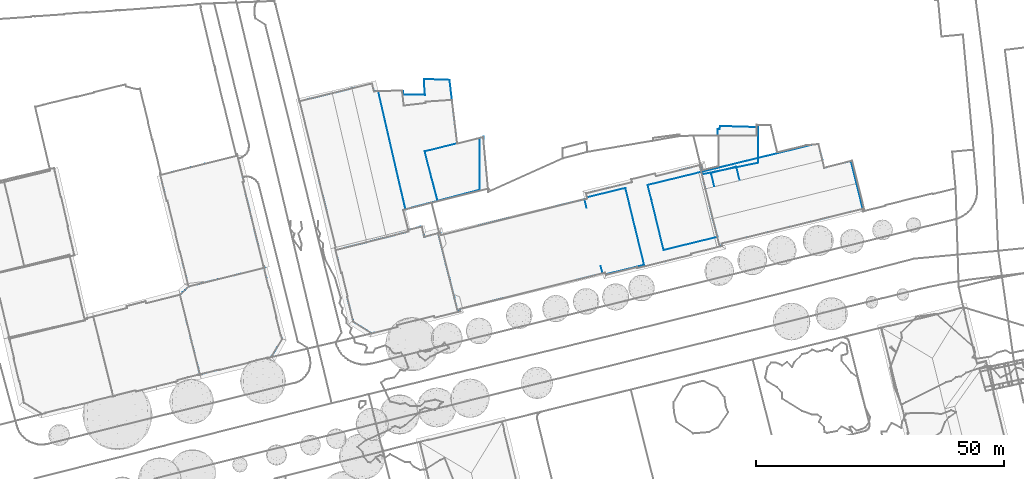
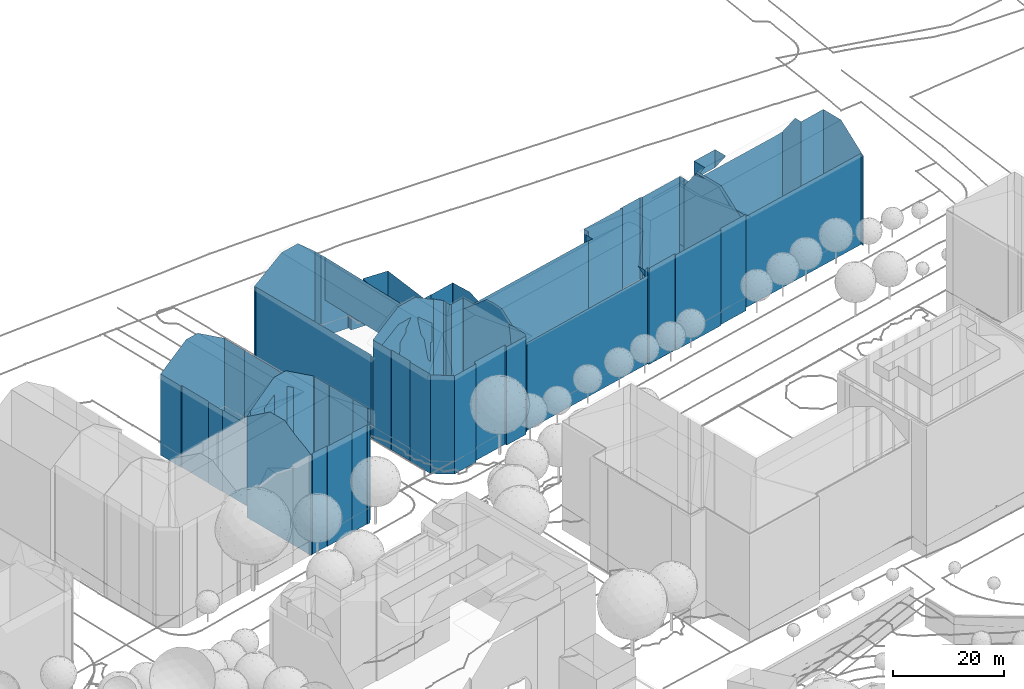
# Not in any storey, part 56 of 494: 6 walls.
"""IFC2X3 model written with IfcOpenShell, lengths in metres."""

from ifc_helpers import new_model, si_unit, frame, origin_with_axes, place, context, subcontext, project, faceted_brep, element, save


model = new_model("IFC2X3")

# Units and contexts
model_context = context("Model", 3, precision=1e-05, world=origin_with_axes())
body_context = subcontext(model_context, "Body", "Model", "MODEL_VIEW")
ifc_project = project(units=[si_unit("AREAUNIT", "SQUARE_METRE"), si_unit("LENGTHUNIT", "METRE")], contexts=[model_context])

# Walls
wall_1_placement = place(None, frame((322.3647320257, 436.9627160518, 538.8935), z_axis=(0.0, 0.0, 1.0), x_axis=(1.0, 0.0, 0.0)))
element("IfcWall", 1, at=wall_1_placement, Name="Wall 0", context=body_context, shape_type="Brep", body=[
    faceted_brep([(6.2010000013, 1.558600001, 22.2648), (9.0160000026, 2.2666000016, 22.2648), (6.2010000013, 1.558600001, -0.0001), (14.6490000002, -20.2509999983, 22.2648), (11.8310000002, -20.9481999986, 22.2648), (14.6490000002, -20.2509999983, -0.0001), (3.0170000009, -11.9463, 17.8682), (3.0940000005, -11.9248000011, 17.9242), (3.0940000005, -11.9248000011, -0.0001), (3.0170000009, -11.9463, -0.0001), (3.887000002, -15.4481999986, -0.0001), (3.887000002, -15.4481999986, 17.8642), (3.9580000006, -15.4365999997, -0.0001), (3.9580000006, -15.436499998, 17.9142), (5.693, -22.4668000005, 17.8982), (4.8839999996, -19.1884999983, 17.9052), (5.693, -22.4668000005, -0.0001), (11.8310000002, -20.9481999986, -0.0001), (0.0, 0.0, 0.0), (0.0, 0.0, 17.8492), (0.5080000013, -2.0780999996, 17.8412), (1.2719999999, -5.2040999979, -0.0001), (1.2719999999, -5.2040999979, 17.8292), (1.432, -5.1777999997, -0.0001), (1.432, -5.177699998, 17.9412), (16.8340000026, -1.3456999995, 17.8612), (16.6009999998, -1.4043000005, -0.0001), (16.8340000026, -1.3456999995, -0.0001), (15.9020000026, 2.4257999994, 17.8542), (16.2820000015, 0.8887000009, 17.8572), (16.2490000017, 1.0243999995, -0.0001), (15.5370000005, 3.9061999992, -0.0001), (9.0160000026, 2.2666000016, -0.0001), (15.5370000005, 3.9061999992, 17.8512), (20.9400000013, -18.6942999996, -0.0001), (20.9400000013, -18.6942999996, 18.0102), (20.8540000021, -18.3202999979, -0.0001), (20.8540000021, -18.3202999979, 18.0052), (20.7660000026, -18.3398000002, -0.0001), (20.7660000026, -18.3398000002, 18.0652), (18.6830000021, -9.8720999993, 18.0422), (16.6009999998, -1.4043000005, 18.0192)], [[[0, 1, 2]], [[3, 4, 5]], [[6, 7, 8]], [[6, 8, 9]], [[10, 11, 6]], [[9, 10, 6]], [[12, 13, 11]], [[11, 10, 12]], [[14, 15, 16]], [[16, 15, 12]], [[13, 12, 15]], [[4, 14, 17]], [[18, 19, 0]], [[2, 18, 0]], [[20, 21, 22]], [[19, 18, 20]], [[23, 24, 22]], [[21, 23, 22]], [[8, 7, 24]], [[25, 26, 27]], [[28, 29, 30]], [[28, 30, 31]], [[29, 25, 30]], [[1, 31, 32]], [[33, 31, 1]], [[34, 35, 3]], [[5, 34, 3]], [[36, 37, 34]], [[34, 37, 35]], [[38, 39, 37]], [[37, 36, 38]], [[26, 40, 38]], [[39, 38, 40]], [[1, 32, 2]], [[4, 17, 5]], [[14, 16, 17]], [[21, 20, 18]], [[24, 23, 8]], [[41, 26, 25]], [[31, 33, 28]], [[25, 27, 30]], [[26, 41, 40]]]),
])
wall_2_placement = place(None, frame((326.3277320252, 412.8494160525, 538.5095), z_axis=(0.0, 0.0, 1.0), x_axis=(1.0, 0.0, 0.0)))
element("IfcWall", 2, at=wall_2_placement, Name="Wall 0", context=body_context, shape_type="Brep", body=[
    faceted_brep([(7.9780000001, -15.0692999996, -0.0001), (7.4100000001, -15.2089999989, 22.0508), (4.3540000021, -15.9589999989, -0.0001), (4.012000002, -16.1328000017, 22.0998), (4.3770000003, -16.0507999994, -0.0001), (4.3770000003, -16.0507999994, 22.0828), (4.012000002, -16.1328000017, -0.0001), (3.7020000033, -14.8867000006, -0.0001), (3.7020000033, -14.8867000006, 22.9007), (3.0460000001, -12.2490000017, -0.0001), (9.9140000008, 3.6708999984, 26.2564), (10.2670000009, 3.7578000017, -0.0001), (9.9140000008, 3.6708999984, 0.0), (2.1640000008, -8.7001999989, 26.2034), (1.4590000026, -5.8652000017, 26.1614), (2.1640000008, -8.7001999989, -0.0001), (2.3690000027, -9.5254000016, 26.2024), (2.3690000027, -9.5254000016, -0.0001), (3.0460000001, -12.2490000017, 24.3446), (7.4759999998, 3.0683999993, 0.0), (7.4759999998, 3.0683999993, 26.2614), (7.6760000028, 3.1171999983, 26.2614), (7.6760000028, 3.1171999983, 0.0), (3.9960000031, 2.2069999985, 23.5307), (4.2250000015, 2.2637000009, 0.0), (1.7750000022, 1.6572000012, 21.7879), (1.7300000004, 1.6464999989, 0.0), (1.7300000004, 1.6464999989, 21.7779), (0.9770000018, 0.9307000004, 9.531), (0.9830000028, 0.9365000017, 21.8099), (0.5260000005, 0.5009999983, 21.8299), (0.5190000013, 0.4941999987, 0.0), (0.2140000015, 0.2030999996, 8.1792), (0.325000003, 0.3106000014, 21.9169), (0.0, 0.0, 22.0598), (0.0, 0.0, 0.0), (1.4590000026, -5.8652000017, -0.0001), (18.6440000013, -12.0839999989, -0.0001), (18.3960000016, -12.496100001, 21.7298), (18.3960000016, -12.496100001, -0.0001), (16.9869999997, 5.0166000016, -0.0001), (17.0620000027, 5.0449000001, -0.0001), (16.9869999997, 5.0166000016, 21.8229), (16.9830000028, 5.4199000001, -0.0001), (16.9830000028, 5.4199000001, 21.7569), (17.0620000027, 5.0449000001, 21.7719), (17.4060000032, 3.3427999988, -0.0001), (7.9780000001, -15.0692999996, 22.0338), (8.0090000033, -15.1504000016, -0.0001), (8.0090000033, -15.1504000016, 21.9738), (14.0, -13.6640000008, 21.8038), (14.0, -13.6640000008, -0.0001), (17.6180000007, -12.6787, 21.7578), (13.9890000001, -13.5839999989, 21.8588), (17.6180000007, -12.6787, -0.0001), (13.9890000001, -13.5839999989, -0.0001), (17.6500000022, -12.7685000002, -0.0001), (17.6500000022, -12.7685000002, 21.6928), (18.3360000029, -12.5956999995, -0.0001), (18.3360000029, -12.5956999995, 21.6748), (10.6460000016, 3.8526000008, 26.0255), (10.6460000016, 3.8526000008, -0.0001), (10.2670000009, 3.7578000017, 26.2694), (17.9869999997, 1.3975000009, 21.7979), (19.4560000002, -4.5868999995, 21.8548), (17.9869999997, 1.3975000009, -0.0001), (19.4560000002, -4.5868999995, -0.0001), (17.8969999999, 1.3828000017, -0.0001), (17.4290000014, 3.2481000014, 21.8479), (17.8969999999, 1.3828000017, 21.8589), (20.3780000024, -8.2148000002, -0.0001), (20.3780000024, -8.2148000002, 21.8678), (20.5439999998, -8.8817999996, -0.0001), (20.5439999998, -8.8817999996, 21.8728), (20.2939999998, -8.2529000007, -0.0001), (20.2939999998, -8.2529000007, 21.9288), (19.3900000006, -4.6024999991, -0.0001), (19.3900000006, -4.6024999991, 21.8998), (20.5530000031, -8.9160000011, 21.8558), (18.745000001, -11.9169999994, 21.7338), (20.5530000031, -8.9160000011, -0.0001), (4.4050000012, -15.9453000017, 22.1468), (4.3542000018, -15.9589000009, 22.1478)], [[[0, 1, 2]], [[3, 4, 5]], [[3, 6, 4]], [[5, 4, 2]], [[3, 7, 6]], [[7, 3, 8]], [[8, 9, 7]], [[10, 11, 12]], [[13, 14, 15]], [[16, 15, 17]], [[18, 17, 9]], [[19, 20, 21]], [[22, 19, 21]], [[21, 10, 22]], [[23, 24, 25]], [[25, 24, 26]], [[26, 27, 25]], [[28, 29, 26]], [[28, 30, 29]], [[31, 30, 28]], [[27, 26, 29]], [[28, 26, 31]], [[32, 33, 31]], [[34, 33, 35]], [[33, 30, 31]], [[32, 31, 35]], [[14, 35, 36]], [[35, 14, 34]], [[37, 38, 39]], [[40, 41, 42]], [[43, 44, 45]], [[40, 42, 46]], [[0, 47, 1]], [[48, 49, 47]], [[47, 0, 48]], [[50, 49, 48]], [[51, 50, 48]], [[52, 53, 54]], [[53, 55, 54]], [[56, 57, 54]], [[58, 59, 57]], [[58, 39, 38]], [[60, 43, 61]], [[44, 43, 60]], [[62, 60, 11]], [[63, 64, 65]], [[64, 66, 65]], [[67, 63, 65]], [[68, 67, 46]], [[68, 69, 67]], [[70, 71, 72]], [[73, 72, 71]], [[74, 75, 70]], [[71, 70, 75]], [[76, 77, 75]], [[75, 74, 76]], [[64, 76, 66]], [[78, 79, 80]], [[38, 37, 79]], [[79, 37, 80]], [[73, 78, 72]], [[78, 80, 72]], [[81, 2, 1]], [[82, 2, 81]], [[82, 5, 2]], [[18, 9, 8]], [[62, 11, 10]], [[14, 36, 15]], [[13, 15, 16]], [[16, 17, 18]], [[10, 12, 22]], [[24, 23, 19]], [[20, 19, 23]], [[33, 32, 35]], [[41, 45, 42]], [[45, 41, 43]], [[42, 68, 46]], [[55, 53, 50]], [[50, 51, 55]], [[54, 57, 52]], [[57, 56, 58]], [[58, 38, 59]], [[60, 61, 11]], [[63, 67, 69]], [[77, 76, 64]]]),
])
wall_3_placement = place(None, frame((350.3717320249, 451.8328160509, 539.2744), z_axis=(0.0, 0.0, 1.0), x_axis=(1.0, 0.0, 0.0)))
element("IfcWall", 3, at=wall_3_placement, Name="Wall 0", context=body_context, shape_type="Brep", body=[
    faceted_brep([(25.1130000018, 3.630900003, 8.0292), (25.1490000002, 4.4883000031, 8.0292), (25.1130000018, 3.630900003, 0.095), (25.307, 1.2930000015, 8.0292), (25.307, 1.2930000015, 0.095), (20.8680000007, 1.375, 8.0292), (20.8680000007, 1.375, 0.095), (20.8850000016, 2.0957000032, 8.0292), (20.8850000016, 2.0957000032, 0.095), (20.6960000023, 2.0938000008, 8.0292), (20.6960000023, 2.0938000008, 0.095), (20.6870000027, 2.1709000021, 8.0292), (20.6870000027, 2.1709000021, 0.095), (15.875, 2.0215000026, 8.0292), (15.875, 2.0215000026, 0.095), (36.3470000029, -17.8378999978, 0.2009), (27.8430000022, -20.0673999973, 0.2009), (36.3470000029, -17.8378999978, 0.0949), (21.3670000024, -21.7636999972, 0.095), (21.3670000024, -21.7636999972, 8.0292), (27.8430000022, -20.0673999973, 8.0292), (36.2890000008, -7.4042999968, 0.2011), (36.2890000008, -7.4042999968, 0.0951), (30.2460000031, 4.3076000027, 8.0292), (25.1490000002, 4.4883000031, 0.095), (22.0300000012, -26.2577999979, 13.3337), (22.0300000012, -26.2577999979, 8.8621), (20.9350000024, -21.9130999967, 0.0), (20.9350000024, -21.9130999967, 17.8843), (22.0300000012, -26.2577999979, 17.8043), (22.0300000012, -26.2577999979, 4.3915), (22.0300000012, -26.2577999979, 0.0), (21.376000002, -21.8007999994, 17.4763), (21.2390000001, -21.8358999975, 17.6033), (21.376000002, -21.8007999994, 0.0), (21.1600000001, -21.8563999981, 4.8625), (14.6540000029, 3.5850000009, 18.2253), (15.0380000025, 2.0215000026, 18.2053), (14.6540000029, 3.5850000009, 13.6687), (14.6540000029, 3.5850000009, 4.5566), (14.6540000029, 3.5850000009, 0.0), (15.0380000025, 2.0215000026, 0.0), (0.0, 0.0, 8.9102), (0.0950000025, -0.3954999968, 17.8253), (0.0, 0.0, 13.3667), (0.0, 0.0, 17.8233), (0.0, 0.0, 0.0), (0.0950000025, -0.3954999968, 0.0), (0.1580000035, -0.3807999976, 17.8653), (0.1580000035, -0.3807999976, 0.0), (3.7460000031, -14.9345999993, 18.0003), (7.3410000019, -29.5145999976, 0.0), (7.1830000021, -29.5585999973, 0.0), (7.1830000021, -29.5585999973, 18.0362), (7.3410000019, -29.5145999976, 18.1362), (7.2940000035, -30.003899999, 18.0412), (7.2940000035, -30.003899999, 13.5307), (7.2940000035, -30.003899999, 0.0), (15.875, 2.0215000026, 17.4763), (15.875, 2.0215000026, 8.3732), (15.875, 2.0215000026, 0.0), (15.6660000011, 2.0215000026, 4.0046), (37.0260000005, -7.1796999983, 0.201), (37.0260000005, -7.1796999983, 10.037), (37.0890000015, -7.1639999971, 10.037), (37.0890000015, -7.1639999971, 0.201), (37.0260000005, -7.2177999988, 7.5832), (37.0260000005, -7.2177999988, 0.201), (31.7920000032, -8.5419999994, 10.047), (31.7920000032, -8.5419999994, 0.095), (37.0260000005, -7.2177999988, 10.044), (6.6030000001, 1.6152000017, 21.9849), (10.568, 2.5850000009, 21.9849), (10.568, 2.5850000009, 0.0), (6.6030000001, 1.6152000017, 0.0), (17.4960000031, -27.4111000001, 21.9849), (13.5390000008, -28.4169999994, 21.9849), (17.4960000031, -27.4111000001, 0.0), (13.5390000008, -28.4169999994, 0.0), (30.7310000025, 0.2763999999, 8.0292), (30.2460000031, 4.3076000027, 0.095), (30.7310000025, 0.2763999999, 0.095), (31.7840000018, -8.4706999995, 8.0292), (31.7840000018, -8.4706999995, 10.033), (37.0990000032, -7.994099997, 0.201), (37.0990000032, -7.994099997, 10.194), (37.5200000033, -12.4520999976, 11.0529), (37.5200000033, -12.4520999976, 0.2009), (38.0050000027, -17.5975999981, 10.051), (38.0050000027, -17.5975999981, 0.2009), (27.8670000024, -20.1611000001, 10.067), (27.8670000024, -20.1611000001, 0.2009), (25.2400000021, -10.0819999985, 10.03), (25.2400000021, -10.0819999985, 8.0292), (26.5840000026, -15.2343999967, 11.0609), (26.5840000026, -15.2343999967, 8.0292), (26.4370000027, -14.6737999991, 10.9499), (25.6490000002, -11.6473999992, 10.342), (25.6490000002, -11.6473999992, 8.0292), (26.4370000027, -14.6737999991, 8.0292)], [[[0, 1, 2]], [[3, 0, 4]], [[5, 3, 6]], [[7, 5, 8]], [[9, 7, 10]], [[11, 9, 12]], [[13, 11, 14]], [[15, 16, 17]], [[17, 16, 18]], [[19, 18, 16]], [[19, 16, 20]], [[21, 15, 22]], [[1, 23, 24]], [[25, 26, 27]], [[28, 29, 25]], [[30, 27, 26]], [[30, 31, 27]], [[32, 33, 34]], [[33, 35, 34]], [[34, 35, 27]], [[28, 27, 35]], [[36, 37, 38]], [[39, 38, 37]], [[40, 39, 41]], [[39, 37, 41]], [[42, 43, 44]], [[44, 43, 45]], [[42, 46, 47]], [[48, 47, 49]], [[48, 43, 47]], [[50, 48, 51]], [[48, 49, 51]], [[52, 53, 51]], [[54, 51, 53]], [[55, 53, 56]], [[53, 52, 56]], [[56, 52, 57]], [[58, 32, 59]], [[60, 14, 18]], [[32, 19, 59]], [[19, 34, 18]], [[18, 34, 60]], [[19, 13, 59]], [[41, 59, 61]], [[37, 58, 59]], [[61, 59, 13]], [[41, 61, 60]], [[14, 60, 61]], [[13, 14, 61]], [[62, 63, 64]], [[62, 64, 65]], [[66, 62, 67]], [[68, 21, 69]], [[21, 68, 66]], [[22, 69, 21]], [[70, 66, 68]], [[66, 67, 21]], [[71, 72, 36]], [[45, 71, 38]], [[44, 45, 38]], [[44, 73, 42]], [[71, 36, 38]], [[39, 44, 38]], [[39, 73, 44]], [[46, 42, 74]], [[74, 42, 73]], [[39, 40, 73]], [[25, 29, 75]], [[25, 75, 76]], [[26, 25, 76]], [[55, 30, 26]], [[30, 77, 31]], [[55, 26, 76]], [[77, 55, 56]], [[77, 56, 78]], [[56, 57, 78]], [[55, 77, 30]], [[23, 79, 80]], [[81, 80, 79]], [[79, 82, 81]], [[83, 68, 82]], [[69, 82, 68]], [[82, 69, 81]], [[84, 85, 86]], [[86, 87, 84]], [[87, 88, 89]], [[88, 87, 86]], [[88, 90, 91]], [[88, 91, 89]], [[92, 82, 93]], [[82, 92, 83]], [[90, 94, 95]], [[95, 94, 96]], [[90, 95, 20]], [[20, 16, 91]], [[20, 91, 90]], [[97, 92, 98]], [[96, 97, 99]], [[97, 98, 99]], [[98, 92, 93]], [[96, 99, 95]], [[1, 24, 2]], [[0, 2, 4]], [[3, 4, 6]], [[5, 6, 8]], [[7, 8, 10]], [[9, 10, 12]], [[11, 12, 14]], [[15, 17, 22]], [[23, 80, 24]], [[27, 28, 25]], [[33, 28, 35]], [[47, 43, 42]], [[50, 51, 54]], [[32, 34, 19]], [[59, 41, 37]], [[64, 85, 84]], [[84, 65, 64]], [[70, 62, 66]], [[62, 70, 63]]]),
])
wall_4_placement = place(None, frame((378.372732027, 425.1658160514, 539.4553), z_axis=(0.0, 0.0, 1.0), x_axis=(1.0, 0.0, 0.0)))
element("IfcWall", 4, at=wall_4_placement, Name="Wall 0", context=body_context, shape_type="Brep", body=[
    faceted_brep([(42.1889999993, 9.8095000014, 0.163), (52.9899999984, 12.4521999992, 0.163), (42.188000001, 9.8095000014, 0.132), (29.8669999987, 5.1484999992, 20.827), (29.436999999, 6.9081999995, 20.827), (29.436999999, 6.9081999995, 19.2892), (45.4450000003, -5.6395999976, 21.154), (40.0529999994, -6.9657999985, 0.163), (51.0260000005, -4.2675999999, 21.159), (40.0529999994, -6.9657999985, 21.149), (51.0260000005, -4.2675999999, 0.163), (50.9609999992, -4.0370999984, 0.163), (56.7109999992, -2.6162, 0.163), (50.9609999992, -4.0370999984, 21.3139), (40.0020000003, -6.7577999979, 5.4445), (40.0020000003, -6.7577999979, 0.163), (40.0020000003, -6.7577999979, 16.0075), (57.1889999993, -2.4569999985, 5.4245), (57.2010000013, -2.503899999, 15.9485), (57.2010000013, -2.503899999, 0.163), (57.1889999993, -2.4569999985, 15.9485), (57.2010000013, -2.503899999, 21.21), (57.1889999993, -2.4571000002, 0.163), (52.9899999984, 12.4512000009, 5.6525), (53.1550000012, 12.4912, 0.163), (52.6600000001, 13.7871000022, 0.163), (52.6600000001, 13.7871000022, 21.216), (52.870000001, 13.8330000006, 0.163), (52.870000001, 13.8330000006, 21.22), (43.8299999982, 11.5479000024, 21.266), (48.362999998, 12.697300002, 21.241), (43.8299999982, 11.5479000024, 0.163), (49.2190000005, 12.9141000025, 0.163), (43.6860000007, 12.1240000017, 20.88), (43.6860000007, 12.1240000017, 0.163), (38.8759999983, 10.9365000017, 0.163), (39.0199999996, 10.3516000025, 21.279), (38.8759999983, 10.9365000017, 20.887), (39.0199999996, 10.3516000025, 15.9995), (39.0199999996, 10.3516000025, 0.163), (39.0199999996, 10.3516000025, 10.721), (4.300999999, -15.177699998, 19.2252), (4.3539999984, -15.378899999, 19.0482), (4.300999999, -15.177699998, 4.9885), (4.300999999, -15.177699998, 0.0), (3.8720000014, -15.4970999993, 0.0), (4.3539999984, -15.378899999, 0.0), (3.8720000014, -15.4970999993, 19.0482), (0.0, 0.0, 19.0482), (0.4160000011, 0.1016000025, 0.0), (0.0, 0.0, 0.0), (33.0839999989, -8.0057999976, 20.827), (32.6669999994, -6.2987999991, 20.827), (33.0839999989, -8.0057999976, 19.3341), (41.4809999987, -6.2987999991, 0.163), (33.7300000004, -8.1952999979, 0.0), (41.4809999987, -6.2987999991, 0.0), (29.9499999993, 7.3252000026, 0.163), (37.6860000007, 9.2168000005, 0.163), (29.9499999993, 7.3252000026, 0.0), (56.2239999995, -0.6464999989, 0.163), (45.3929999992, -3.2949000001, 0.132), (56.2250000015, -0.6464999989, 0.132), (29.8159999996, 8.1328000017, 0.163), (29.7522, 8.1173, 0.163), (29.7522, 8.1173, 21.215), (29.8159999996, 8.1328000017, 21.259), (30.0179999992, 7.0527999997, 21.219), (30.0179999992, 7.0527999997, 0.0), (0.5309999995, -0.3066000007, 0.0), (0.5309999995, -0.3066000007, 19.4092), (33.6479999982, -7.8662, 21.207), (33.6479999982, -7.8662, 0.0), (33.7639999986, -8.3319999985, 21.208), (33.7300000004, -8.1952999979, 0.163), (33.7639999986, -8.3319999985, 0.163), (33.8370000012, -8.3134999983, 21.258), (40.0020000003, -6.7577999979, 21.288), (33.8370000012, -8.3134999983, 0.163), (57.0370000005, -2.5409999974, 0.163), (57.0370000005, -2.5409999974, 21.3199), (56.7109999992, -2.6162, 21.3229), (56.7010000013, -2.5760999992, 0.163), (56.7010000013, -2.5760999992, 21.3499), (56.9820000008, -2.5077999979, 0.163), (56.9820000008, -2.5077999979, 21.3499), (57.1889999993, -2.4569999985, 21.211), (52.936999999, 13.5175999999, 21.429), (53.1550000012, 12.4912, 21.45), (42.9739999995, 6.5987000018, 24.2637), (42.9589999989, 6.6601999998, 24.2637), (42.9450000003, 6.7168000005, 24.1847), (1.4539999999, -5.8202999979, 24.1447), (1.9360000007, -7.748999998, 24.3047), (2.4180000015, -9.6766999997, 24.1447), (1.818, -7.2773000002, 0.0), (2.4180000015, -9.6766999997, 0.0), (39.6349999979, 1.2451000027, 0.0), (37.6860000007, 9.2168000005, 0.0), (39.5830000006, 1.4590000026, 0.163), (40.055999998, -0.4716999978, 0.163), (40.055999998, -0.4716999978, 0.0), (45.3929999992, -3.2949000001, 0.163), (53.7670000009, 9.3027999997, 0.132), (52.9899999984, 12.4521999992, 0.132), (55.1570000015, 3.6768000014, 0.132), (55.8299999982, 0.9530999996, 21.5449), (52.9899999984, 12.4512000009, 21.5619), (53.2829999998, 11.2655999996, 21.5599), (55.1570000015, 3.6768000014, 24.3037), (53.7670000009, 9.3027999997, 24.2637), (56.631000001, -2.2928999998, 21.5399), (0.4160000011, 0.1016000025, 19.0482)], [[[0, 1, 2]], [[3, 4, 5]], [[6, 7, 8]], [[9, 7, 6]], [[8, 7, 10]], [[8, 10, 11]], [[11, 12, 13]], [[14, 7, 9]], [[7, 14, 15]], [[14, 9, 16]], [[17, 18, 19]], [[18, 17, 20]], [[18, 20, 21]], [[17, 19, 22]], [[23, 1, 24]], [[25, 26, 27]], [[27, 26, 28]], [[29, 30, 31]], [[25, 32, 26]], [[30, 26, 32]], [[33, 34, 35]], [[36, 37, 38]], [[39, 40, 35]], [[40, 37, 35]], [[41, 42, 43]], [[44, 43, 42]], [[42, 45, 46]], [[45, 42, 47]], [[48, 49, 50]], [[51, 52, 53]], [[54, 55, 56]], [[57, 58, 59]], [[60, 61, 62]], [[40, 39, 63]], [[63, 64, 65]], [[65, 66, 38]], [[65, 38, 40]], [[38, 66, 36]], [[65, 40, 63]], [[67, 57, 68]], [[57, 67, 65]], [[68, 57, 59]], [[64, 57, 65]], [[5, 69, 70]], [[5, 4, 67]], [[68, 69, 5]], [[5, 67, 68]], [[71, 51, 53]], [[53, 72, 71]], [[72, 53, 43]], [[41, 43, 53]], [[44, 72, 43]], [[73, 74, 75]], [[74, 73, 71]], [[74, 72, 55]], [[72, 74, 71]], [[76, 73, 16]], [[16, 77, 76]], [[73, 14, 16]], [[78, 15, 14]], [[75, 78, 14]], [[14, 73, 75]], [[79, 18, 12]], [[19, 18, 79]], [[18, 21, 80]], [[81, 12, 80]], [[80, 12, 18]], [[82, 83, 17]], [[17, 84, 82]], [[20, 83, 85]], [[20, 17, 83]], [[17, 22, 84]], [[85, 86, 20]], [[27, 28, 24]], [[28, 87, 88]], [[24, 28, 88]], [[89, 90, 91]], [[92, 48, 93]], [[94, 93, 48]], [[94, 48, 47]], [[48, 50, 47]], [[50, 95, 47]], [[96, 45, 47]], [[47, 95, 96]], [[58, 97, 98]], [[99, 97, 58]], [[100, 101, 97]], [[101, 54, 56]], [[54, 101, 100]], [[100, 97, 99]], [[2, 102, 0]], [[102, 2, 61]], [[103, 104, 1]], [[103, 1, 23]], [[103, 23, 105]], [[60, 62, 105]], [[83, 82, 60]], [[105, 106, 60]], [[106, 105, 23]], [[23, 107, 108]], [[23, 108, 106]], [[109, 108, 110]], [[106, 83, 60]], [[111, 83, 106]], [[108, 109, 106]], [[1, 104, 2]], [[11, 13, 8]], [[13, 12, 81]], [[9, 77, 16]], [[20, 86, 21]], [[88, 23, 24]], [[107, 23, 88]], [[30, 32, 31]], [[34, 33, 31]], [[29, 31, 33]], [[33, 35, 37]], [[38, 37, 40]], [[46, 44, 42]], [[49, 112, 70]], [[49, 70, 69]], [[112, 49, 48]], [[74, 55, 54]], [[58, 98, 59]], [[102, 61, 60]]]),
])
wall_5_placement = place(None, frame((357.6657320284, 421.8289160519, 539.1994), z_axis=(0.0, 0.0, 1.0), x_axis=(1.0, 0.0, 0.0)))
element("IfcWall", 5, at=wall_5_placement, Name="Wall 0", context=body_context, shape_type="Brep", body=[
    faceted_brep([(17.8849999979, 2.6768000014, 0.0), (17.8849999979, 2.6768000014, 21.7569), (17.9029999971, 2.6816999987, 21.7559), (17.7618999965, 3.1689000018, 0.0), (17.7619999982, 3.1669999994, 21.4499), (17.8019999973, 3.0067999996, 21.5499), (17.811999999, 2.9677999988, 7.6362), (20.6909999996, 3.4024000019, 0.0), (20.6909999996, 3.4024000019, 21.7509), (20.6989999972, 3.371100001, 21.7719), (20.8249999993, 2.8672000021, 21.7759), (20.8589999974, 2.7294999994, 6.8033), (20.9559999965, 2.3438000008, 0.0), (20.9559999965, 2.3418000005, 21.7799), (21.4959999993, 0.1816999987, 21.7859), (21.4959999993, 0.183600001, 0.0), (14.6539999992, 4.072300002, 23.2067), (16.1839999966, 4.4561000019, 22.2328), (15.5939999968, 4.307599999, 6.6533), (17.2089999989, 4.7138999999, 0.0), (14.6539999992, 4.072300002, 0.0), (14.7359999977, 3.746100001, 23.2047), (14.7359999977, 3.746100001, 0.0), (10.4019999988, 2.6436000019, 0.0), (10.4019999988, 2.6436000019, 25.9645), (12.3159999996, 3.1308999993, 24.7456), (12.2979999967, 3.126000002, 5.2835), (17.5659999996, 4.1074000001, 21.4419), (17.5269999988, 4.0967000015, 21.4679), (17.5269999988, 4.0967000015, 0.0), (17.4009999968, 4.7617000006, 0.0), (17.5659999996, 4.1074000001, 0.0), (17.4009999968, 4.7617000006, 21.4549), (17.6589999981, 3.5742000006, 7.3693), (6.7789999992, 1.7226999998, 0.0), (6.5539999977, 1.6660000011, 25.9655), (3.6309999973, 0.9228999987, 0.0), (6.182, 1.572300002, 25.9655), (6.193, 1.5751999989, 0.0), (0.0, 0.0, 21.8309), (4.8089999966, 1.2226999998, 25.0476), (0.0, 0.0, 0.0), (0.0629999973, -0.2518999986, 21.8319), (7.2819999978, -16.7890000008, -0.0001), (7.2819999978, -16.7890999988, 21.5399), (7.1589999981, -16.7118999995, 21.6089), (7.1589999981, -16.7118999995, -0.0001), (7.8339999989, -16.6503999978, -0.0001), (7.8339999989, -16.6503999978, 21.5419), (3.4959999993, -14.1338, 21.8199), (3.4959999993, -14.1338, 0.0), (3.5829999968, -14.4844000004, 0.0), (6.2119999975, -16.1220999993, 21.6229), (5.3169999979, -15.5654000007, -0.0001), (4.6419999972, -15.1444999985, 21.6459), (3.5829999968, -14.4844000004, 21.6619), (2.4519999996, -9.3847999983, 21.9059), (1.2679999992, -4.5654000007, 0.0), (2.4519999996, -9.3847999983, 0.0), (2.3279999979, -9.4120999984, 21.8239), (2.3279999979, -9.4120999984, 0.0), (0.7179999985, -2.8768999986, 21.8329), (0.310999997, -1.2470999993, 21.8319), (0.5279999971, -2.1182000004, 0.0), (1.1439999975, -4.5868999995, 21.8339), (1.1439999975, -4.5868999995, 0.0), (1.2679999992, -4.5654000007, 21.9159), (24.3809999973, -11.365199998, -0.0001), (24.379999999, -11.3632999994, 21.9558), (24.5169999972, -11.9100999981, -0.0001), (24.5179999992, -11.9131000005, 21.9588), (23.9299999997, -9.5625, -0.0001), (23.932, -9.5722999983, 22.0188), (24.0999999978, -10.2432000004, 5.4814), (12.3529999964, -15.1123000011, 21.8199), (12.4469999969, -15.490199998, -0.0001), (12.3529999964, -15.1123000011, -0.0001), (19.8239999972, -13.248999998, -0.0001), (19.8239999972, -13.248999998, 21.8399), (19.9179999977, -13.6268999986, 21.5809), (19.9179999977, -13.6268999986, -0.0001), (24.6529999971, -12.4550999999, -0.0001), (24.6529999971, -12.4550999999, 21.5879), (24.5869999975, -12.1884999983, 8.5611), (21.8499999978, -1.2344000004, 5.4334), (21.9609999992, -1.6766999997, 12.2648), (22.1999999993, -2.6347999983, 0.0), (21.8499999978, -1.2344000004, 21.8099), (22.2059999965, -2.6591999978, 21.8349), (22.4809999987, -3.7588, 5.4404), (22.6729999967, -4.5302999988, 21.8659), (22.7579999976, -4.8671999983, 5.4584), (22.3699999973, -3.316399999, 21.8459), (22.9439999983, -5.6141999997, -0.0001), (22.9799999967, -5.7567999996, 6.8373), (22.9409999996, -5.6024999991, 21.8839), (23.0019999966, -5.8447000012, 21.8819), (23.0449999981, -6.0185000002, -0.0001), (23.0429999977, -6.0088999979, 21.8819), (23.3029999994, -7.0507999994, 21.9218), (17.1619999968, 4.7021999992, 21.6109), (17.6259999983, 3.7050999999, 21.4599), (12.4469999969, -15.490199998, 21.5609)], [[[0, 1, 2]], [[3, 4, 5]], [[6, 3, 5]], [[1, 0, 6]], [[6, 0, 3]], [[2, 7, 0]], [[7, 8, 9]], [[7, 10, 11]], [[11, 10, 12]], [[7, 9, 10]], [[10, 13, 12]], [[11, 12, 7]], [[12, 14, 15]], [[16, 17, 18]], [[18, 17, 19]], [[18, 19, 20]], [[21, 20, 22]], [[23, 24, 25]], [[21, 22, 25]], [[26, 22, 23]], [[27, 28, 29]], [[30, 27, 31]], [[32, 27, 30]], [[19, 32, 30]], [[33, 3, 29]], [[34, 24, 23]], [[34, 35, 24]], [[36, 37, 38]], [[38, 35, 34]], [[39, 40, 36]], [[39, 36, 41]], [[40, 37, 36]], [[39, 41, 42]], [[43, 44, 45]], [[45, 46, 43]], [[47, 48, 43]], [[44, 43, 48]], [[49, 50, 51]], [[46, 45, 52]], [[53, 46, 52]], [[54, 55, 53]], [[55, 51, 53]], [[56, 57, 58]], [[59, 58, 60]], [[60, 50, 49]], [[59, 60, 49]], [[61, 62, 63]], [[64, 61, 65]], [[61, 63, 65]], [[62, 41, 63]], [[65, 57, 66]], [[64, 65, 66]], [[67, 68, 69]], [[68, 70, 69]], [[71, 72, 73]], [[68, 67, 72]], [[73, 72, 67]], [[73, 67, 71]], [[74, 75, 76]], [[77, 78, 76]], [[74, 76, 78]], [[79, 80, 81]], [[82, 81, 83]], [[83, 81, 69]], [[84, 85, 86]], [[15, 14, 84]], [[85, 87, 88]], [[88, 86, 85]], [[84, 86, 15]], [[89, 90, 91]], [[86, 88, 92]], [[89, 86, 92]], [[90, 93, 91]], [[89, 91, 93]], [[89, 93, 86]], [[94, 95, 96]], [[95, 94, 93]], [[94, 96, 97]], [[98, 97, 96]], [[94, 97, 93]], [[97, 99, 71]], [[97, 98, 99]], [[99, 72, 71]], [[6, 5, 1]], [[8, 7, 2]], [[12, 13, 14]], [[16, 18, 20]], [[16, 20, 21]], [[25, 22, 26]], [[25, 26, 23]], [[31, 27, 29]], [[19, 17, 100]], [[100, 32, 19]], [[101, 4, 33]], [[29, 28, 101]], [[101, 33, 29]], [[4, 3, 33]], [[35, 38, 37]], [[55, 49, 51]], [[54, 53, 52]], [[66, 57, 56]], [[56, 58, 59]], [[42, 41, 62]], [[102, 75, 74]], [[80, 79, 78]], [[78, 77, 80]], [[82, 79, 81]], [[82, 83, 70]], [[69, 70, 83]], [[102, 48, 75]], [[48, 47, 75]], [[14, 85, 84]], [[87, 85, 14]], [[92, 90, 89]], [[95, 93, 90]]]),
])
wall_6_placement = place(None, frame((431.242732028, 438.998816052, 539.6453), z_axis=(0.0, 0.0, 1.0), x_axis=(1.0, 0.0, 0.0)))
element("IfcWall", 6, at=wall_6_placement, Name="Wall 0", context=body_context, shape_type="Brep", body=[
    faceted_brep([(2.7369999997, -4.3387999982, 24.6876), (2.068, -1.5975999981, 24.6626), (2.068, -1.5975999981, 20.689), (7.1779999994, -0.3495999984, 24.6626), (7.8469999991, -3.0887999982, 24.6876), (7.1779999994, -0.3495999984, 20.69), (24.9079999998, -0.5839999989, 24.7096), (30.2819999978, 0.8027999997, 24.7096), (24.9079999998, -0.5839999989, 0.132), (4.2009999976, -15.8172999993, 0.132), (4.2009999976, -15.8172999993, 20.153), (4.3189999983, -16.2899999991, 0.132), (32.5539999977, -8.8827999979, 0.1319), (32.5539999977, -8.8827999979, 20.154), (18.3899999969, -12.3465999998, 20.153), (32.686999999, -9.3535000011, 19.7351), (32.7599999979, -9.3348999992, 19.7351), (32.686999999, -9.3535000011, 0.1319), (32.7599999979, -9.3348999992, 0.1319), (3.8310000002, -16.4090999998, 0.132), (4.3189999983, -16.2899999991, 19.7351), (3.8310000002, -16.4090999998, 19.7351), (22.436999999, 4.0762000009, 19.7351), (23.7479999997, 4.2061000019, 0.132), (22.436999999, 4.0762000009, 0.132), (0.1199999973, -1.3817999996, 19.7351), (0.2850000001, -1.3418000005, 6.2254), (0.1199999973, -1.3817999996, 0.132), (11.5669999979, 1.4180000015, 6.2254), (0.2850000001, -1.3418000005, 0.132), (11.5669999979, 1.4180000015, 0.132), (11.2989999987, 8.0850000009, 6.2254), (11.555999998, 8.0811000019, 6.2254), (11.2989999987, 8.0850000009, 0.0), (11.2969999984, 7.629900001, 6.2254), (11.2969999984, 7.629900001, 0.0), (3.862999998, 7.8575000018, 6.2254), (3.862999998, 7.8575000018, 0.0), (3.8429999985, 7.2149000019, 6.2254), (3.8429999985, 7.2149000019, 0.0), (3.443, 7.2265999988, 6.2254), (3.443, 7.2265999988, 0.0), (3.3990000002, 5.9052999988, 6.2254), (3.3990000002, 5.9052999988, 0.0), (3.6289999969, 5.9063000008, 6.2254), (3.6289999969, 5.9063000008, 0.0), (3.5729999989, -0.254900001, 6.2254), (3.5729999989, -0.254900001, 0.0), (0.4780000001, -1.0146000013, 6.2254), (0.4780000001, -1.0146000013, 0.0), (0.2029999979, 0.0439999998, 6.2254), (0.2029999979, 0.0439999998, 0.0), (0.0, 0.0, 6.2254), (0.0, 0.0, 0.0), (0.3969999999, -1.8662, 0.0), (0.3969999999, -1.8662, 0.132), (11.5689999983, 0.4463, 0.132), (11.5689999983, 0.4463, 0.0), (11.555999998, 8.0811000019, 0.0), (31.3829999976, -3.6981999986, 24.7096), (31.3829999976, -3.6981999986, 0.1319), (23.7479999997, 4.2061000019, 19.9981), (24.5299999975, 0.9746000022, 0.132), (24.5299999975, 0.9746000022, 24.7096), (0.9609999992, -4.7890000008, 24.7096), (2.4399999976, -10.7762999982, 24.7096), (0.9609999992, -4.7890000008, 0.132), (2.4399999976, -10.7762999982, 0.132), (30.2819999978, 0.8027999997, 0.132)], [[[0, 1, 2]], [[3, 4, 5]], [[1, 5, 2]], [[6, 7, 8]], [[9, 10, 11]], [[12, 13, 14]], [[9, 12, 14]], [[14, 10, 9]], [[15, 13, 12]], [[16, 17, 18]], [[17, 16, 15]], [[19, 20, 21]], [[19, 11, 20]], [[22, 23, 24]], [[25, 26, 27]], [[26, 25, 28]], [[29, 27, 26]], [[28, 22, 24]], [[22, 28, 25]], [[24, 30, 28]], [[31, 32, 33]], [[34, 31, 35]], [[36, 34, 37]], [[38, 36, 39]], [[40, 38, 41]], [[42, 40, 43]], [[44, 42, 45]], [[46, 44, 47]], [[48, 46, 49]], [[50, 48, 51]], [[52, 50, 53]], [[54, 55, 29]], [[29, 52, 53]], [[52, 29, 26]], [[29, 53, 54]], [[56, 55, 57]], [[58, 32, 30]], [[30, 32, 28]], [[30, 56, 57]], [[30, 57, 58]], [[59, 60, 7]], [[60, 16, 18]], [[16, 60, 59]], [[61, 62, 23]], [[62, 61, 63]], [[6, 8, 63]], [[64, 25, 65]], [[21, 65, 25]], [[25, 66, 21]], [[27, 66, 25]], [[19, 21, 67]], [[67, 21, 66]], [[3, 5, 1]], [[7, 68, 8]], [[20, 11, 10]], [[15, 12, 17]], [[61, 23, 22]], [[32, 58, 33]], [[31, 33, 35]], [[34, 35, 37]], [[36, 37, 39]], [[38, 39, 41]], [[40, 41, 43]], [[42, 43, 45]], [[44, 45, 47]], [[46, 47, 49]], [[48, 49, 51]], [[50, 51, 53]], [[55, 54, 57]], [[60, 68, 7]], [[8, 62, 63]]]),
])

save(model, "model.ifc")
